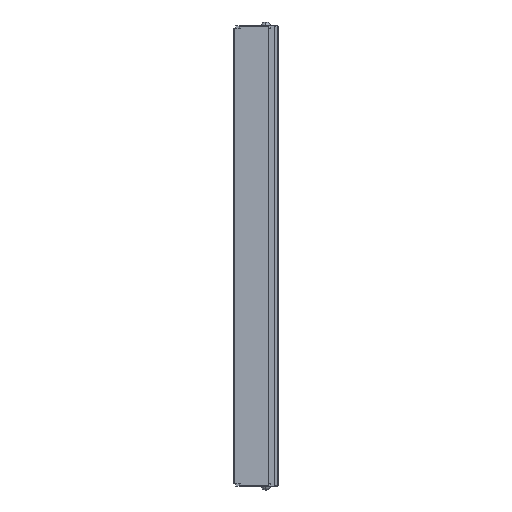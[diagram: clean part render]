
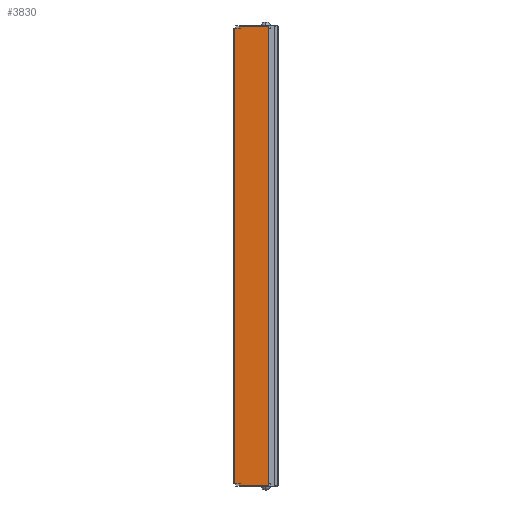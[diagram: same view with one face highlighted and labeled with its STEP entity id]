
A CAD part, left-side view. The second image highlights one B-rep face of the part: STEP entity #3830.
In plain terms, the highlighted planar face has unit normal (-1, 0, 0).
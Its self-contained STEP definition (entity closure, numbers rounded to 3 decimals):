
#466=DIRECTION('',(0.,1.,0.));
#467=VECTOR('',#466,3.303);
#468=CARTESIAN_POINT('',(-14.,13.197,139.5));
#469=LINE('',#468,#467);
#839=DIRECTION('',(0.,1.,0.));
#840=VECTOR('',#839,17.497);
#841=CARTESIAN_POINT('',(-14.,-4.3,140.5));
#842=LINE('',#841,#840);
#847=DIRECTION('',(0.,0.,1.));
#848=VECTOR('',#847,281.);
#849=CARTESIAN_POINT('',(-14.,-4.3,-140.5));
#850=LINE('',#849,#848);
#1202=DIRECTION('',(0.,0.,-1.));
#1203=VECTOR('',#1202,279.);
#1204=CARTESIAN_POINT('',(-14.,16.5,139.5));
#1205=LINE('',#1204,#1203);
#1206=DIRECTION('',(0.,0.,1.));
#1207=VECTOR('',#1206,1.);
#1208=CARTESIAN_POINT('',(-14.,13.197,-140.5));
#1209=LINE('',#1208,#1207);
#1210=DIRECTION('',(0.,1.,0.));
#1211=VECTOR('',#1210,3.303);
#1212=CARTESIAN_POINT('',(-14.,13.197,-139.5));
#1213=LINE('',#1212,#1211);
#1214=DIRECTION('',(0.,0.,1.));
#1215=VECTOR('',#1214,1.);
#1216=CARTESIAN_POINT('',(-14.,13.197,139.5));
#1217=LINE('',#1216,#1215);
#1222=DIRECTION('',(0.,-1.,0.));
#1223=VECTOR('',#1222,17.497);
#1224=CARTESIAN_POINT('',(-14.,13.197,-140.5));
#1225=LINE('',#1224,#1223);
#1810=CARTESIAN_POINT('',(-14.,16.5,-139.5));
#1811=VERTEX_POINT('',#1810);
#1820=CARTESIAN_POINT('',(-14.,16.5,139.5));
#1821=VERTEX_POINT('',#1820);
#2026=CARTESIAN_POINT('',(-14.,13.197,140.5));
#2027=VERTEX_POINT('',#2026);
#2052=CARTESIAN_POINT('',(-14.,-4.3,140.5));
#2053=VERTEX_POINT('',#2052);
#2098=CARTESIAN_POINT('',(-14.,13.197,139.5));
#2100=VERTEX_POINT('',#2098);
#2284=CARTESIAN_POINT('',(-14.,13.197,-140.5));
#2285=VERTEX_POINT('',#2284);
#2286=CARTESIAN_POINT('',(-14.,-4.3,-140.5));
#2287=VERTEX_POINT('',#2286);
#2328=CARTESIAN_POINT('',(-14.,13.197,-139.5));
#2329=VERTEX_POINT('',#2328);
#3813=CARTESIAN_POINT('',(-14.,16.5,-139.5));
#3814=DIRECTION('',(-1.,0.,0.));
#3815=DIRECTION('',(0.,-1.,0.));
#3816=AXIS2_PLACEMENT_3D('',#3813,#3814,#3815);
#3817=PLANE('',#3816);
#3818=ORIENTED_EDGE('',*,*,#3213,.F.);
#3820=ORIENTED_EDGE('',*,*,#3819,.F.);
#3822=ORIENTED_EDGE('',*,*,#3821,.T.);
#3823=ORIENTED_EDGE('',*,*,#2447,.T.);
#3824=ORIENTED_EDGE('',*,*,#3808,.F.);
#3825=ORIENTED_EDGE('',*,*,#2856,.F.);
#3826=ORIENTED_EDGE('',*,*,#3183,.T.);
#3827=ORIENTED_EDGE('',*,*,#3198,.F.);
#3828=EDGE_LOOP('',(#3818,#3820,#3822,#3823,#3824,#3825,#3826,#3827));
#3829=FACE_OUTER_BOUND('',#3828,.F.);
#2447=EDGE_CURVE('',#2329,#1811,#1213,.T.);
#2856=EDGE_CURVE('',#2100,#1821,#469,.T.);
#3183=EDGE_CURVE('',#2100,#2027,#1217,.T.);
#3198=EDGE_CURVE('',#2053,#2027,#842,.T.);
#3213=EDGE_CURVE('',#2287,#2053,#850,.T.);
#3808=EDGE_CURVE('',#1821,#1811,#1205,.T.);
#3819=EDGE_CURVE('',#2285,#2287,#1225,.T.);
#3821=EDGE_CURVE('',#2285,#2329,#1209,.T.);
#3830=ADVANCED_FACE('',(#3829),#3817,.T.);
